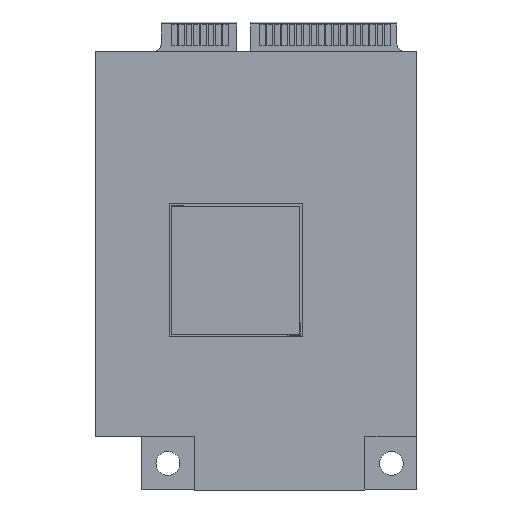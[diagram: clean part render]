
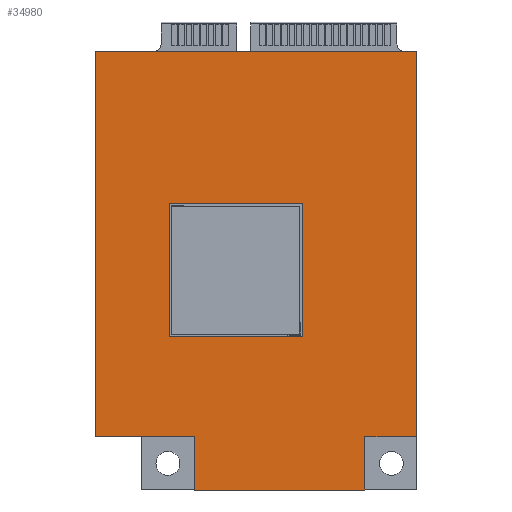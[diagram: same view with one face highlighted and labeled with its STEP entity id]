
A CAD part, front view. The second image highlights one B-rep face of the part: STEP entity #34980.
In plain terms, the highlighted planar face has unit normal (0, -1, 0) as drawn and (0, 1, 0) by its records, which use the part's own axes.
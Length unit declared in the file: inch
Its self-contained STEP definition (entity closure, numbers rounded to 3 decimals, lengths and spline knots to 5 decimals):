
#265 = FACE_BOUND ( 'NONE', #7678, .T. ) ;
#1081 = ORIENTED_EDGE ( 'NONE', *, *, #22475, .T. ) ;
#1504 = ORIENTED_EDGE ( 'NONE', *, *, #20084, .F. ) ;
#1756 = VECTOR ( 'NONE', #22910, 39.37008 ) ;
#1888 = VECTOR ( 'NONE', #2829, 39.37008 ) ;
#2115 = CARTESIAN_POINT ( 'NONE',  ( 0.888, 0.125, -1.227 ) ) ;
#2562 = EDGE_CURVE ( 'NONE', #15849, #29724, #29117, .T. ) ;
#2829 = DIRECTION ( 'NONE',  ( 0., 0., 1. ) ) ;
#3030 = DIRECTION ( 'NONE',  ( 1., 0., 0. ) ) ;
#3975 = VECTOR ( 'NONE', #11756, 39.37008 ) ;
#5280 = CARTESIAN_POINT ( 'NONE',  ( 0.888, 0.125, -0.656 ) ) ;
#5707 = CARTESIAN_POINT ( 'NONE',  ( 0.42562, 0.125, 0. ) ) ;
#6035 = EDGE_CURVE ( 'NONE', #36287, #21147, #24109, .T. ) ;
#6706 = ORIENTED_EDGE ( 'NONE', *, *, #12482, .T. ) ;
#6875 = VECTOR ( 'NONE', #25479, 39.37008 ) ;
#7352 = ORIENTED_EDGE ( 'NONE', *, *, #6035, .F. ) ;
#7678 = EDGE_LOOP ( 'NONE', ( #7352, #1504, #36304, #17034 ) ) ;
#9698 = CARTESIAN_POINT ( 'NONE',  ( 0., 0.125, -0.22819 ) ) ;
#9970 = CARTESIAN_POINT ( 'NONE',  ( 0., 0.125, -0.22819 ) ) ;
#10233 = VECTOR ( 'NONE', #3030, 39.37008 ) ;
#10515 = LINE ( 'NONE', #35511, #27815 ) ;
#10740 = VERTEX_POINT ( 'NONE', #22008 ) ;
#11648 = EDGE_CURVE ( 'NONE', #20507, #23911, #27581, .T. ) ;
#11756 = DIRECTION ( 'NONE',  ( 0., 0., 1. ) ) ;
#11848 = PLANE ( 'NONE',  #33082 ) ;
#12482 = EDGE_CURVE ( 'NONE', #32633, #15849, #35986, .T. ) ;
#12557 = VECTOR ( 'NONE', #26648, 39.37008 ) ;
#12625 = CARTESIAN_POINT ( 'NONE',  ( 1.378, 0.125, -1.88 ) ) ;
#12921 = DIRECTION ( 'NONE',  ( 1., 0., 0. ) ) ;
#13116 = CARTESIAN_POINT ( 'NONE',  ( 1.15526, 0.125, -0.22819 ) ) ;
#13146 = CARTESIAN_POINT ( 'NONE',  ( 0., 0.125, -1.88 ) ) ;
#13186 = VECTOR ( 'NONE', #28849, 39.37008 ) ;
#14197 = LINE ( 'NONE', #12625, #13186 ) ;
#14464 = EDGE_CURVE ( 'NONE', #10740, #26217, #10515, .T. ) ;
#15105 = DIRECTION ( 'NONE',  ( 0., 0., 1. ) ) ;
#15849 = VERTEX_POINT ( 'NONE', #27788 ) ;
#16383 = FACE_OUTER_BOUND ( 'NONE', #36600, .T. ) ;
#16539 = EDGE_CURVE ( 'NONE', #21147, #10740, #20822, .T. ) ;
#16711 = EDGE_CURVE ( 'NONE', #17407, #20507, #14197, .T. ) ;
#17034 = ORIENTED_EDGE ( 'NONE', *, *, #16539, .F. ) ;
#17407 = VERTEX_POINT ( 'NONE', #41502 ) ;
#17906 = ORIENTED_EDGE ( 'NONE', *, *, #24601, .T. ) ;
#18894 = CARTESIAN_POINT ( 'NONE',  ( 0.317, 0.125, -0.656 ) ) ;
#18916 = VERTEX_POINT ( 'NONE', #36163 ) ;
#18920 = CARTESIAN_POINT ( 'NONE',  ( 0.42562, 0.125, -0.22819 ) ) ;
#19301 = DIRECTION ( 'NONE',  ( -1., 0., 0. ) ) ;
#19414 = VECTOR ( 'NONE', #32550, 39.37008 ) ;
#20011 = LINE ( 'NONE', #18920, #1888 ) ;
#20039 = CARTESIAN_POINT ( 'NONE',  ( 0.317, 0.125, -1.227 ) ) ;
#20084 = EDGE_CURVE ( 'NONE', #26217, #36287, #37375, .T. ) ;
#20507 = VERTEX_POINT ( 'NONE', #38155 ) ;
#20822 = LINE ( 'NONE', #2115, #38057 ) ;
#21147 = VERTEX_POINT ( 'NONE', #5280 ) ;
#21267 = CARTESIAN_POINT ( 'NONE',  ( 1.15526, 0.125, -0.22819 ) ) ;
#21646 = CARTESIAN_POINT ( 'NONE',  ( 0., 0.125, -1.88 ) ) ;
#22008 = CARTESIAN_POINT ( 'NONE',  ( 0.888, 0.125, -1.227 ) ) ;
#22227 = CARTESIAN_POINT ( 'NONE',  ( 0.317, 0.125, -0.656 ) ) ;
#22475 = EDGE_CURVE ( 'NONE', #18916, #32633, #20011, .T. ) ;
#22737 = ORIENTED_EDGE ( 'NONE', *, *, #11648, .T. ) ;
#22910 = DIRECTION ( 'NONE',  ( -1., 0., 0. ) ) ;
#23589 = DIRECTION ( 'NONE',  ( 1., 0., 0. ) ) ;
#23911 = VERTEX_POINT ( 'NONE', #21646 ) ;
#24109 = LINE ( 'NONE', #18894, #6875 ) ;
#24601 = EDGE_CURVE ( 'NONE', #29724, #17407, #36070, .T. ) ;
#25479 = DIRECTION ( 'NONE',  ( 1., 0., 0. ) ) ;
#26217 = VERTEX_POINT ( 'NONE', #40531 ) ;
#26469 = ORIENTED_EDGE ( 'NONE', *, *, #29792, .T. ) ;
#26648 = DIRECTION ( 'NONE',  ( 0., 0., 1. ) ) ;
#27423 = VECTOR ( 'NONE', #23589, 39.37008 ) ;
#27581 = LINE ( 'NONE', #13146, #1756 ) ;
#27788 = CARTESIAN_POINT ( 'NONE',  ( 1.15526, 0.125, 0. ) ) ;
#27815 = VECTOR ( 'NONE', #19301, 39.37008 ) ;
#27990 = CARTESIAN_POINT ( 'NONE',  ( 0., 0.125, -1.88 ) ) ;
#28070 = CARTESIAN_POINT ( 'NONE',  ( 0., 0.125, 0. ) ) ;
#28849 = DIRECTION ( 'NONE',  ( 0., 0., -1. ) ) ;
#28875 = LINE ( 'NONE', #27990, #3975 ) ;
#29117 = LINE ( 'NONE', #13116, #19414 ) ;
#29724 = VERTEX_POINT ( 'NONE', #21267 ) ;
#29792 = EDGE_CURVE ( 'NONE', #23911, #40728, #28875, .T. ) ;
#31434 = VECTOR ( 'NONE', #12921, 39.37008 ) ;
#32550 = DIRECTION ( 'NONE',  ( 0., 0., -1. ) ) ;
#32633 = VERTEX_POINT ( 'NONE', #5707 ) ;
#33082 = AXIS2_PLACEMENT_3D ( 'NONE', #28070, #34579, #15105 ) ;
#34579 = DIRECTION ( 'NONE',  ( 0., 1., 0. ) ) ;
#34980 = ADVANCED_FACE ( 'NONE', ( #16383, #265 ), #11848, .T. ) ;
#35511 = CARTESIAN_POINT ( 'NONE',  ( 0.317, 0.125, -1.227 ) ) ;
#35986 = LINE ( 'NONE', #36461, #27423 ) ;
#36070 = LINE ( 'NONE', #41820, #10233 ) ;
#36163 = CARTESIAN_POINT ( 'NONE',  ( 0.42562, 0.125, -0.22819 ) ) ;
#36287 = VERTEX_POINT ( 'NONE', #22227 ) ;
#36304 = ORIENTED_EDGE ( 'NONE', *, *, #14464, .F. ) ;
#36461 = CARTESIAN_POINT ( 'NONE',  ( 0.42562, 0.125, 0. ) ) ;
#36600 = EDGE_LOOP ( 'NONE', ( #26469, #37932, #1081, #6706, #38645, #17906, #41034, #22737 ) ) ;
#37375 = LINE ( 'NONE', #20039, #12557 ) ;
#37930 = LINE ( 'NONE', #9698, #31434 ) ;
#37932 = ORIENTED_EDGE ( 'NONE', *, *, #39152, .T. ) ;
#38057 = VECTOR ( 'NONE', #40704, 39.37008 ) ;
#38155 = CARTESIAN_POINT ( 'NONE',  ( 1.378, 0.125, -1.88 ) ) ;
#38645 = ORIENTED_EDGE ( 'NONE', *, *, #2562, .T. ) ;
#39152 = EDGE_CURVE ( 'NONE', #40728, #18916, #37930, .T. ) ;
#40531 = CARTESIAN_POINT ( 'NONE',  ( 0.317, 0.125, -1.227 ) ) ;
#40704 = DIRECTION ( 'NONE',  ( 0., 0., -1. ) ) ;
#40728 = VERTEX_POINT ( 'NONE', #9970 ) ;
#41034 = ORIENTED_EDGE ( 'NONE', *, *, #16711, .T. ) ;
#41502 = CARTESIAN_POINT ( 'NONE',  ( 1.378, 0.125, -0.22819 ) ) ;
#41820 = CARTESIAN_POINT ( 'NONE',  ( 1.15526, 0.125, -0.22819 ) ) ;
